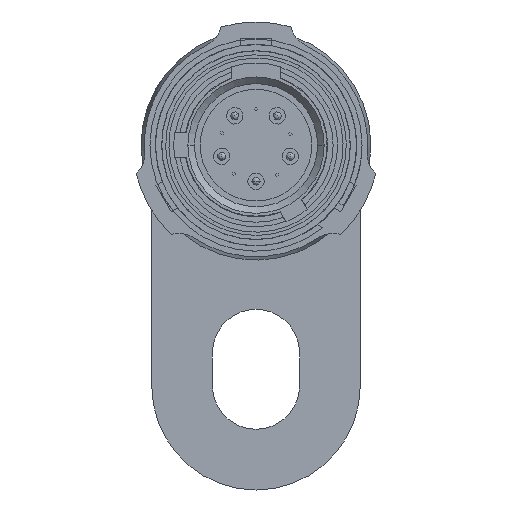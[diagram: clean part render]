
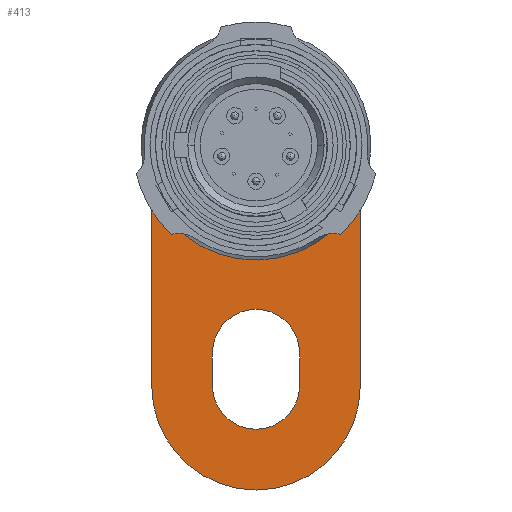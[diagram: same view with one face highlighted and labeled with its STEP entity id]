
A CAD part, left-side view. The second image highlights one B-rep face of the part: STEP entity #413.
In plain terms, the highlighted planar face has unit normal (-1, 0, 0).
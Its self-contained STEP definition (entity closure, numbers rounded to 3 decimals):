
#200=AXIS2_PLACEMENT_3D('Circle Axis2P3D',#198,#199,$) ;
#248=AXIS2_PLACEMENT_3D('Circle Axis2P3D',#246,#247,$) ;
#320=AXIS2_PLACEMENT_3D('Circle Axis2P3D',#318,#319,$) ;
#368=AXIS2_PLACEMENT_3D('Circle Axis2P3D',#366,#367,$) ;
#381=AXIS2_PLACEMENT_3D('Plane Axis2P3D',#378,#379,#380) ;
#391=AXIS2_PLACEMENT_3D('Circle Axis2P3D',#389,#390,$) ;
#400=AXIS2_PLACEMENT_3D('Circle Axis2P3D',#398,#399,$) ;
#195=CARTESIAN_POINT('Vertex',(0.,6.35,0.)) ;
#198=CARTESIAN_POINT('Axis2P3D Location',(0.,0.,0.)) ;
#202=CARTESIAN_POINT('Vertex',(0.,-6.35,0.)) ;
#222=CARTESIAN_POINT('Line Origine',(0.,-6.35,-7.325)) ;
#226=CARTESIAN_POINT('Vertex',(0.,-6.35,-14.65)) ;
#246=CARTESIAN_POINT('Axis2P3D Location',(0.,0.,-14.65)) ;
#250=CARTESIAN_POINT('Vertex',(0.,6.35,-14.65)) ;
#270=CARTESIAN_POINT('Line Origine',(0.,6.35,-7.325)) ;
#291=CARTESIAN_POINT('Vertex',(0.,-2.65,-14.65)) ;
#294=CARTESIAN_POINT('Line Origine',(0.,-2.65,-13.65)) ;
#298=CARTESIAN_POINT('Vertex',(0.,-2.65,-12.65)) ;
#318=CARTESIAN_POINT('Axis2P3D Location',(0.,0.,-12.65)) ;
#322=CARTESIAN_POINT('Vertex',(0.,2.65,-12.65)) ;
#342=CARTESIAN_POINT('Line Origine',(0.,2.65,-13.65)) ;
#346=CARTESIAN_POINT('Vertex',(0.,2.65,-14.65)) ;
#366=CARTESIAN_POINT('Axis2P3D Location',(0.,0.,-14.65)) ;
#378=CARTESIAN_POINT('Axis2P3D Location',(0.,0.,0.)) ;
#389=CARTESIAN_POINT('Axis2P3D Location',(0.,0.,0.)) ;
#393=CARTESIAN_POINT('Vertex',(0.,5.9,0.)) ;
#395=CARTESIAN_POINT('Vertex',(0.,-5.9,0.)) ;
#398=CARTESIAN_POINT('Axis2P3D Location',(0.,0.,0.)) ;
#199=DIRECTION('Axis2P3D Direction',(1.,0.,0.)) ;
#223=DIRECTION('Vector Direction',(0.,0.,1.)) ;
#247=DIRECTION('Axis2P3D Direction',(1.,0.,0.)) ;
#271=DIRECTION('Vector Direction',(0.,0.,1.)) ;
#295=DIRECTION('Vector Direction',(0.,0.,1.)) ;
#319=DIRECTION('Axis2P3D Direction',(1.,0.,0.)) ;
#343=DIRECTION('Vector Direction',(0.,0.,-1.)) ;
#367=DIRECTION('Axis2P3D Direction',(1.,0.,0.)) ;
#379=DIRECTION('Axis2P3D Direction',(1.,0.,0.)) ;
#380=DIRECTION('Axis2P3D XDirection',(0.,1.,0.)) ;
#390=DIRECTION('Axis2P3D Direction',(1.,0.,0.)) ;
#399=DIRECTION('Axis2P3D Direction',(1.,0.,0.)) ;
#224=VECTOR('Line Direction',#223,1.) ;
#272=VECTOR('Line Direction',#271,1.) ;
#296=VECTOR('Line Direction',#295,1.) ;
#344=VECTOR('Line Direction',#343,1.) ;
#384=ORIENTED_EDGE('',*,*,#274,.F.) ;
#385=ORIENTED_EDGE('',*,*,#252,.F.) ;
#386=ORIENTED_EDGE('',*,*,#228,.F.) ;
#387=ORIENTED_EDGE('',*,*,#204,.F.) ;
#404=ORIENTED_EDGE('',*,*,#397,.F.) ;
#405=ORIENTED_EDGE('',*,*,#402,.F.) ;
#408=ORIENTED_EDGE('',*,*,#370,.T.) ;
#409=ORIENTED_EDGE('',*,*,#348,.T.) ;
#410=ORIENTED_EDGE('',*,*,#324,.T.) ;
#411=ORIENTED_EDGE('',*,*,#300,.T.) ;
#406=FACE_BOUND('',#403,.T.) ;
#412=FACE_BOUND('',#407,.T.) ;
#413=ADVANCED_FACE('PartBody',(#388,#406,#412),#382,.F.) ;
#201=CIRCLE('generated circle',#200,6.35) ;
#249=CIRCLE('generated circle',#248,6.35) ;
#321=CIRCLE('generated circle',#320,2.65) ;
#369=CIRCLE('generated circle',#368,2.65) ;
#392=CIRCLE('generated circle',#391,5.9) ;
#401=CIRCLE('generated circle',#400,5.9) ;
#204=EDGE_CURVE('',#196,#203,#201,.T.) ;
#228=EDGE_CURVE('',#203,#227,#225,.F.) ;
#252=EDGE_CURVE('',#227,#251,#249,.T.) ;
#274=EDGE_CURVE('',#251,#196,#273,.T.) ;
#300=EDGE_CURVE('',#299,#292,#297,.F.) ;
#324=EDGE_CURVE('',#323,#299,#321,.T.) ;
#348=EDGE_CURVE('',#347,#323,#345,.F.) ;
#370=EDGE_CURVE('',#292,#347,#369,.T.) ;
#397=EDGE_CURVE('',#394,#396,#392,.F.) ;
#402=EDGE_CURVE('',#396,#394,#401,.F.) ;
#383=EDGE_LOOP('',(#384,#385,#386,#387)) ;
#403=EDGE_LOOP('',(#404,#405)) ;
#407=EDGE_LOOP('',(#408,#409,#410,#411)) ;
#388=FACE_OUTER_BOUND('',#383,.T.) ;
#225=LINE('Line',#222,#224) ;
#273=LINE('Line',#270,#272) ;
#297=LINE('Line',#294,#296) ;
#345=LINE('Line',#342,#344) ;
#382=PLANE('Plane',#381) ;
#196=VERTEX_POINT('',#195) ;
#203=VERTEX_POINT('',#202) ;
#227=VERTEX_POINT('',#226) ;
#251=VERTEX_POINT('',#250) ;
#292=VERTEX_POINT('',#291) ;
#299=VERTEX_POINT('',#298) ;
#323=VERTEX_POINT('',#322) ;
#347=VERTEX_POINT('',#346) ;
#394=VERTEX_POINT('',#393) ;
#396=VERTEX_POINT('',#395) ;
